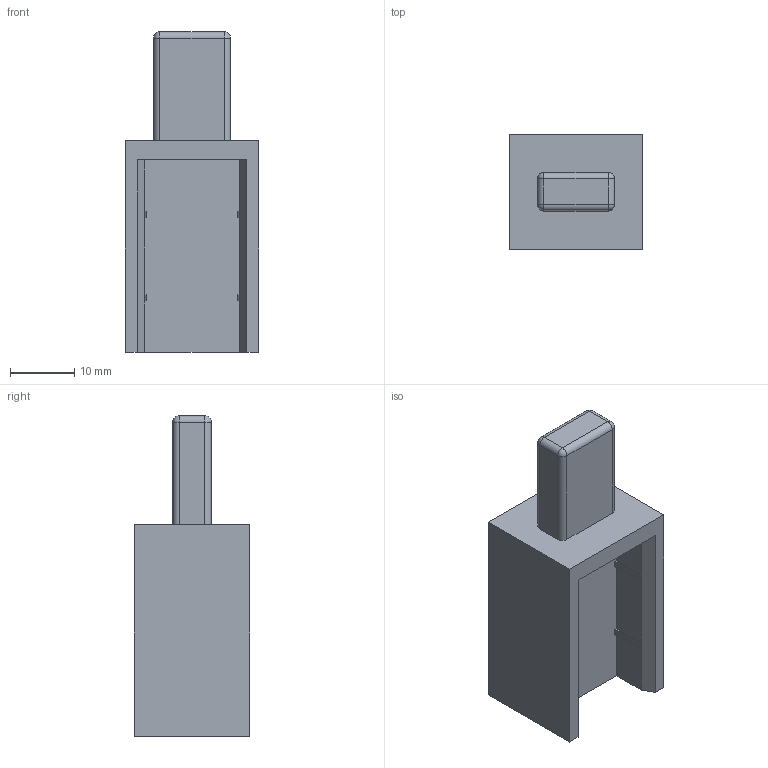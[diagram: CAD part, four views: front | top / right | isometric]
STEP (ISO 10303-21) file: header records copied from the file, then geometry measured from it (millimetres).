
FILE_DESCRIPTION(('Open CASCADE Model'),'2;1');
FILE_NAME('depth-calibration-rectangular-mold.step', '2026-11-14T14:29:31',('Author'),('Open CASCADE'), 'Open CASCADE STEP processor 8.0','Open CASCADE 8.0','Unknown');
FILE_SCHEMA(('AP242_MANAGED_MODEL_BASED_3D_ENGINEERING_MIM_LF {1 0 10303 442 1 1 4 }' ));
Length unit declared in the file: millimetre
Products named in the file (1): Depth Calibration Rectangular Mold
Bounding box: 20.8 x 18 x 50 mm (x, y, z)
Volume: 6765.6 mm3; surface area: 4686.7 mm2
Topology: 1 solids, 1 shells, 67 faces, 168 edges, 100 vertices
Faces by surface type: plane 55, cylinder 8, sphere 4
Entity records: 4196 total; most frequent: CARTESIAN_POINT 828, DIRECTION 634, LINE 466, VECTOR 466, ORIENTED_EDGE 328, PCURVE 328, DEFINITIONAL_REPRESENTATION 328, EDGE_CURVE 164
